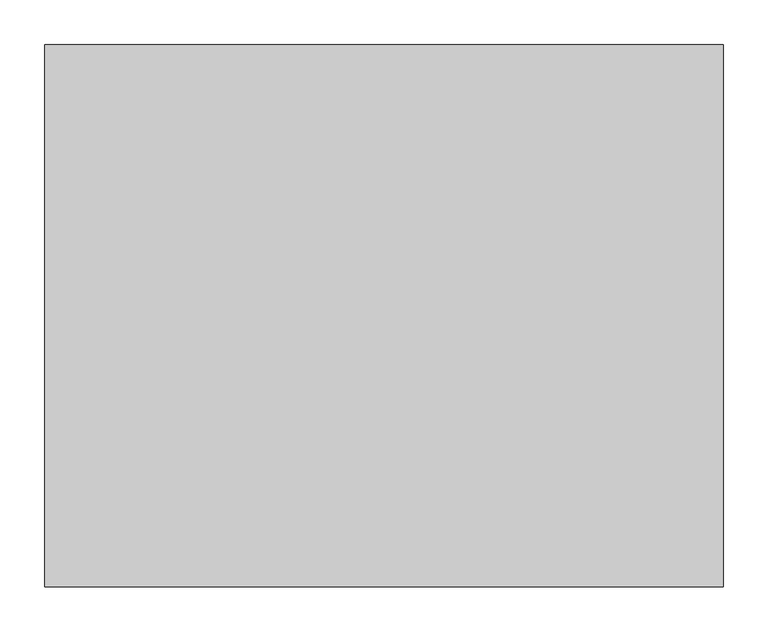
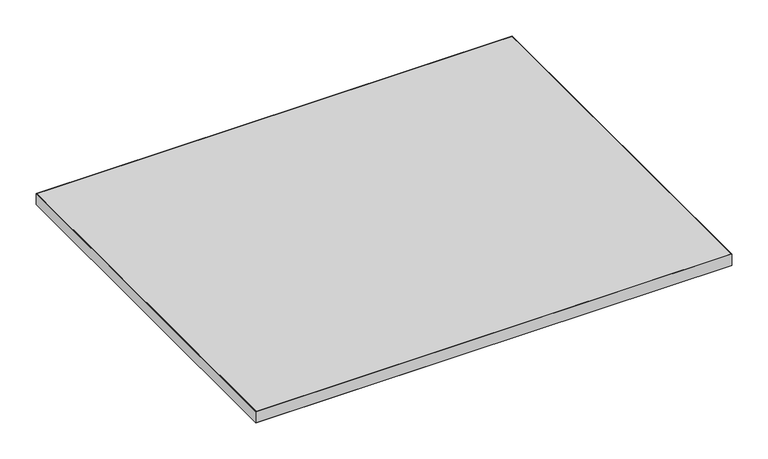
"""IFC4 building model written with IfcOpenShell, lengths in millimetres: furniture geometry, Geiger_GeigerOneCasegoods_CredenzaTopLowHeightPlainVeneer : Veneer 30Wx 24Dx 0.75H."""

from ifc_helpers import new_model, si_unit, origin, origin_with_axes, place, context, project, spatial, polyline, outline, extrude, source, transform, mapped, element, save


def furniture_bf2d382f(model_context):
    return source(origin(), model_context, "Body", "SweptSolid", [
        extrude(outline(polyline([(762.0, 0.0), (762.0, -609.4), (0.0, -609.4), (0.0, 0.0), (762.0, 0.0)]), holes=[polyline([(761.5, -0.5), (0.5, -0.5), (0.5, -608.9), (761.5, -608.9), (761.5, -0.5)])]), origin_with_axes(), (0.0, 0.0, 1.0), 19.05),
        extrude(outline(polyline([(761.5, -0.5), (761.5, -608.9), (0.5, -608.9), (0.5, -0.5), (761.5, -0.5)])), origin_with_axes(), (0.0, 0.0, 1.0), 19.05),
    ])


if __name__ == "__main__":
    model = new_model("IFC4")
    model_context = context("Model", 3, world=origin())
    ifc_project = project(units=[si_unit("LENGTHUNIT", "METRE", prefix="MILLI")], contexts=[model_context])
    site = spatial("IfcSite", under=ifc_project)
    building = spatial("IfcBuilding", under=site)
    placement = place(None, origin())
    furniture_shape = furniture_bf2d382f(model_context)
    element("IfcFurniture", 1, ObjectType="Geiger_GeigerOneCasegoods_CredenzaTopLowHeightPlainVeneer : Veneer 30Wx 24Dx 0.75H", at=placement, inside=building, context=model_context, shape_type="MappedRepresentation", body=[
        mapped(furniture_shape, transform((0.0, 0.0, 0.0), x_axis=(1.0, 0.0, 0.0), y_axis=(0.0, 1.0, 0.0), z_axis=(0.0, 0.0, 1.0))),
    ])
    save(model, "model.ifc")
